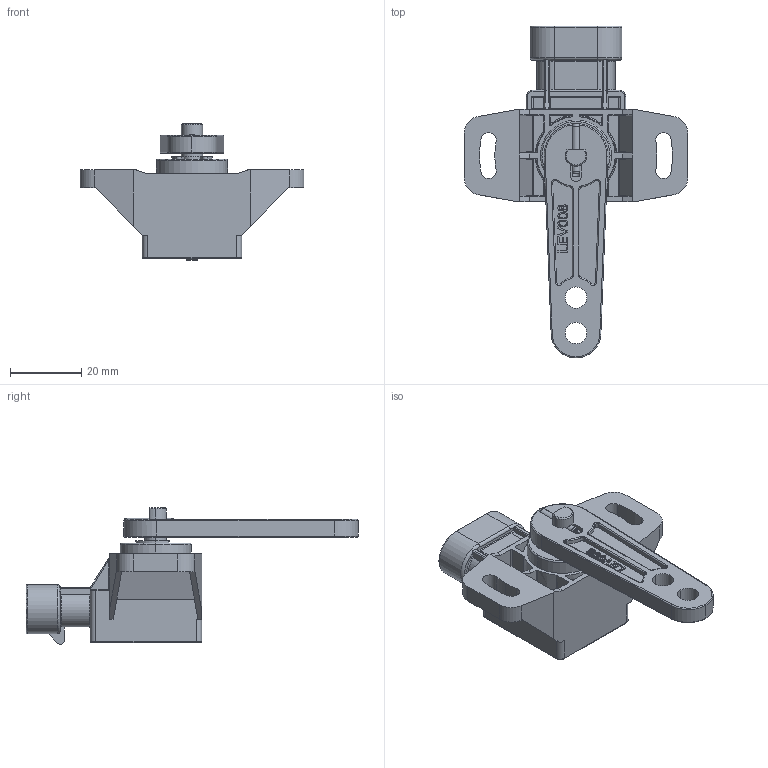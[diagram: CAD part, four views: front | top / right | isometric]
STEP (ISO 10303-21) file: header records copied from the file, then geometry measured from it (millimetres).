
FILE_DESCRIPTION (( 'STEP AP203' ), '1' );
FILE_NAME ('GR3PA S5E1LS xxx xxxx B0.STEP', '2024-12-19T15:13:56', ( '' ), ( '' ), 'SwSTEP 2.0', 'SolidWorks 2024', '' );
FILE_SCHEMA (( 'CONFIG_CONTROL_DESIGN' ));
Length unit declared in the file: millimetre
Products named in the file (1): GR3PA S5E1LS xxx xxxx B0
Bounding box: 63 x 93.5 x 38.47 mm (x, y, z)
Volume: 28881 mm3; surface area: 16379 mm2
Topology: 9 solids, 9 shells, 749 faces, 1853 edges, 1123 vertices
Faces by surface type: plane 272, cylinder 250, bspline 84, torus 70, sphere 40, cone 33
Entity records: 26861 total; most frequent: CARTESIAN_POINT 9567, ORIENTED_EDGE 3634, DIRECTION 3528, EDGE_CURVE 1817, AXIS2_PLACEMENT_3D 1303, VERTEX_POINT 1123, VECTOR 922, LINE 922
